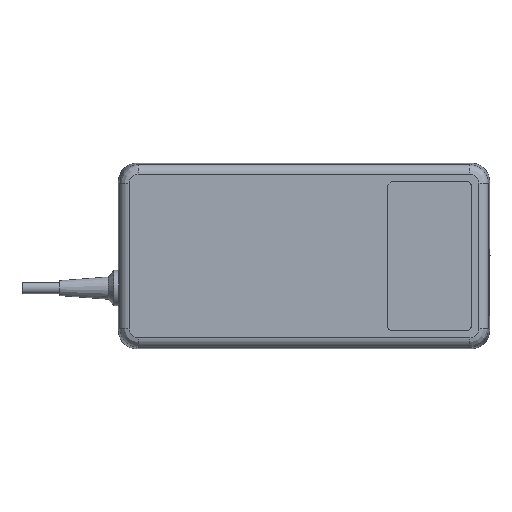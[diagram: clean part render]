
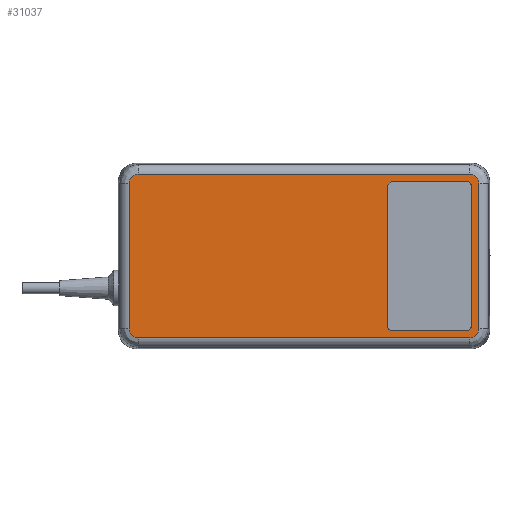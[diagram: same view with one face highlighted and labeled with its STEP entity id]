
A CAD part, front view. The second image highlights one B-rep face of the part: STEP entity #31037.
In plain terms, the highlighted planar face has unit normal (0, -1, 0).
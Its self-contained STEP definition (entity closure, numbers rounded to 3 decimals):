
#26440=CARTESIAN_POINT('',(-89.135,-21.5,
44.128));
#26441=CARTESIAN_POINT('',(-89.465,-21.5,
44.128));
#26442=CARTESIAN_POINT('',(-90.112,-21.5,
44.065));
#26443=CARTESIAN_POINT('',(-91.059,-21.5,43.779));
#26444=CARTESIAN_POINT('',(-91.928,-21.5,43.314));
#26445=CARTESIAN_POINT('',(-92.69,-21.5,42.689));
#26446=CARTESIAN_POINT('',(-93.315,-21.5,41.927));
#26447=CARTESIAN_POINT('',(-93.779,-21.5,
41.059));
#26448=CARTESIAN_POINT('',(-94.065,-21.5,
40.111));
#26449=CARTESIAN_POINT('',(-94.128,-21.5,
39.465));
#26450=CARTESIAN_POINT('',(-94.128,-21.5,
39.135));
#26452=DIRECTION('',(-1.,0.,0.));
#26453=VECTOR('',#26452,178.271);
#26454=CARTESIAN_POINT('',(89.135,-21.5,
44.128));
#26455=LINE('',#26454,#26453);
#26456=CARTESIAN_POINT('',(94.128,-21.5,
39.135));
#26457=CARTESIAN_POINT('',(94.128,-21.5,
39.465));
#26458=CARTESIAN_POINT('',(94.065,-21.5,
40.112));
#26459=CARTESIAN_POINT('',(93.779,-21.5,41.059));
#26460=CARTESIAN_POINT('',(93.314,-21.5,41.928));
#26461=CARTESIAN_POINT('',(92.689,-21.5,42.69));
#26462=CARTESIAN_POINT('',(91.927,-21.5,43.315));
#26463=CARTESIAN_POINT('',(91.059,-21.5,
43.779));
#26464=CARTESIAN_POINT('',(90.111,-21.5,
44.065));
#26465=CARTESIAN_POINT('',(89.465,-21.5,
44.128));
#26466=CARTESIAN_POINT('',(89.135,-21.5,
44.128));
#26468=DIRECTION('',(0.,0.,1.));
#26469=VECTOR('',#26468,78.271);
#26470=CARTESIAN_POINT('',(94.128,-21.5,
-39.135));
#26471=LINE('',#26470,#26469);
#26472=CARTESIAN_POINT('',(89.135,-21.5,
-44.128));
#26473=CARTESIAN_POINT('',(89.465,-21.5,
-44.128));
#26474=CARTESIAN_POINT('',(90.112,-21.5,
-44.065));
#26475=CARTESIAN_POINT('',(91.059,-21.5,-43.779));
#26476=CARTESIAN_POINT('',(91.928,-21.5,-43.314));
#26477=CARTESIAN_POINT('',(92.69,-21.5,-42.689));
#26478=CARTESIAN_POINT('',(93.315,-21.5,-41.927));
#26479=CARTESIAN_POINT('',(93.779,-21.5,
-41.059));
#26480=CARTESIAN_POINT('',(94.065,-21.5,
-40.111));
#26481=CARTESIAN_POINT('',(94.128,-21.5,
-39.465));
#26482=CARTESIAN_POINT('',(94.128,-21.5,
-39.135));
#26484=DIRECTION('',(1.,0.,0.));
#26485=VECTOR('',#26484,178.271);
#26486=CARTESIAN_POINT('',(-89.135,-21.5,
-44.128));
#26487=LINE('',#26486,#26485);
#26488=CARTESIAN_POINT('',(-94.128,-21.5,
-39.135));
#26489=CARTESIAN_POINT('',(-94.128,-21.5,
-39.465));
#26490=CARTESIAN_POINT('',(-94.065,-21.5,
-40.112));
#26491=CARTESIAN_POINT('',(-93.779,-21.5,-41.059));
#26492=CARTESIAN_POINT('',(-93.314,-21.5,-41.928));
#26493=CARTESIAN_POINT('',(-92.689,-21.5,-42.69));
#26494=CARTESIAN_POINT('',(-91.927,-21.5,-43.315));
#26495=CARTESIAN_POINT('',(-91.059,-21.5,
-43.779));
#26496=CARTESIAN_POINT('',(-90.111,-21.5,
-44.065));
#26497=CARTESIAN_POINT('',(-89.465,-21.5,
-44.128));
#26498=CARTESIAN_POINT('',(-89.135,-21.5,
-44.128));
#26500=DIRECTION('',(0.,0.,-1.));
#26501=VECTOR('',#26500,78.271);
#26502=CARTESIAN_POINT('',(-94.128,-21.5,
39.135));
#26503=LINE('',#26502,#26501);
#26504=DIRECTION('',(0.,0.,-1.));
#26505=VECTOR('',#26504,76.);
#26506=CARTESIAN_POINT('',(45.,-21.5,38.));
#26507=LINE('',#26506,#26505);
#26508=CARTESIAN_POINT('',(47.,-21.5,-38.));
#26509=DIRECTION('',(0.,-1.,0.));
#26510=DIRECTION('',(-1.,0.,0.));
#26511=AXIS2_PLACEMENT_3D('',#26508,#26509,#26510);
#26513=DIRECTION('',(1.,0.,0.));
#26514=VECTOR('',#26513,41.);
#26515=CARTESIAN_POINT('',(47.,-21.5,-40.));
#26516=LINE('',#26515,#26514);
#26517=CARTESIAN_POINT('',(88.,-21.5,-38.));
#26518=DIRECTION('',(0.,-1.,0.));
#26519=DIRECTION('',(0.,0.,-1.));
#26520=AXIS2_PLACEMENT_3D('',#26517,#26518,#26519);
#26522=DIRECTION('',(0.,0.,1.));
#26523=VECTOR('',#26522,76.);
#26524=CARTESIAN_POINT('',(90.,-21.5,-38.));
#26525=LINE('',#26524,#26523);
#26526=CARTESIAN_POINT('',(88.,-21.5,38.));
#26527=DIRECTION('',(0.,-1.,0.));
#26528=DIRECTION('',(1.,0.,0.));
#26529=AXIS2_PLACEMENT_3D('',#26526,#26527,#26528);
#26531=DIRECTION('',(-1.,0.,0.));
#26532=VECTOR('',#26531,41.);
#26533=CARTESIAN_POINT('',(88.,-21.5,40.));
#26534=LINE('',#26533,#26532);
#26535=DIRECTION('',(-0.707,0.,-0.707));
#26536=VECTOR('',#26535,2.828);
#26537=CARTESIAN_POINT('',(47.,-21.5,40.));
#26538=LINE('',#26537,#26536);
#27492=CARTESIAN_POINT('',(45.,-21.5,38.));
#27493=CARTESIAN_POINT('',(45.,-21.5,-38.));
#27494=VERTEX_POINT('',#27492);
#27495=VERTEX_POINT('',#27493);
#27496=CARTESIAN_POINT('',(47.,-21.5,-40.));
#27497=VERTEX_POINT('',#27496);
#27498=CARTESIAN_POINT('',(88.,-21.5,-40.));
#27499=VERTEX_POINT('',#27498);
#27500=CARTESIAN_POINT('',(90.,-21.5,-38.));
#27501=VERTEX_POINT('',#27500);
#27502=CARTESIAN_POINT('',(90.,-21.5,38.));
#27503=VERTEX_POINT('',#27502);
#27504=CARTESIAN_POINT('',(88.,-21.5,40.));
#27505=VERTEX_POINT('',#27504);
#27506=CARTESIAN_POINT('',(47.,-21.5,40.));
#27507=VERTEX_POINT('',#27506);
#27508=VERTEX_POINT('',#26440);
#27509=VERTEX_POINT('',#26450);
#27512=CARTESIAN_POINT('',(-94.128,-21.5,
-39.135));
#27513=VERTEX_POINT('',#27512);
#27516=VERTEX_POINT('',#26498);
#27518=CARTESIAN_POINT('',(89.135,-21.5,
-44.128));
#27519=VERTEX_POINT('',#27518);
#27522=VERTEX_POINT('',#26482);
#27524=CARTESIAN_POINT('',(94.128,-21.5,
39.135));
#27525=VERTEX_POINT('',#27524);
#27528=VERTEX_POINT('',#26466);
#30997=CARTESIAN_POINT('',(0.,-21.5,0.));
#30998=DIRECTION('',(0.,1.,0.));
#30999=DIRECTION('',(1.,0.,0.));
#31000=AXIS2_PLACEMENT_3D('',#30997,#30998,#30999);
#31001=PLANE('',#31000);
#31003=ORIENTED_EDGE('',*,*,#31002,.F.);
#31005=ORIENTED_EDGE('',*,*,#31004,.F.);
#31006=ORIENTED_EDGE('',*,*,#30987,.F.);
#31008=ORIENTED_EDGE('',*,*,#31007,.F.);
#31010=ORIENTED_EDGE('',*,*,#31009,.F.);
#31012=ORIENTED_EDGE('',*,*,#31011,.F.);
#31014=ORIENTED_EDGE('',*,*,#31013,.F.);
#31016=ORIENTED_EDGE('',*,*,#31015,.F.);
#31017=EDGE_LOOP('',(#31003,#31005,#31006,#31008,#31010,#31012,#31014,#31016));
#31018=FACE_OUTER_BOUND('',#31017,.F.);
#31020=ORIENTED_EDGE('',*,*,#31019,.T.);
#31022=ORIENTED_EDGE('',*,*,#31021,.T.);
#31024=ORIENTED_EDGE('',*,*,#31023,.T.);
#31026=ORIENTED_EDGE('',*,*,#31025,.T.);
#31028=ORIENTED_EDGE('',*,*,#31027,.T.);
#31030=ORIENTED_EDGE('',*,*,#31029,.T.);
#31032=ORIENTED_EDGE('',*,*,#31031,.T.);
#31034=ORIENTED_EDGE('',*,*,#31033,.T.);
#31035=EDGE_LOOP('',(#31020,#31022,#31024,#31026,#31028,#31030,#31032,#31034));
#31036=FACE_BOUND('',#31035,.F.);
#26451=B_SPLINE_CURVE_WITH_KNOTS('',3,(#26440,#26441,#26442,#26443,#26444,
#26445,#26446,#26447,#26448,#26449,#26450),.UNSPECIFIED.,.F.,.F.,(4,1,1,1,1,1,1,
1,4),(0.,0.125,0.25,0.375,0.5,0.625,0.75,0.875,1.),
.UNSPECIFIED.);
#26467=B_SPLINE_CURVE_WITH_KNOTS('',3,(#26456,#26457,#26458,#26459,#26460,
#26461,#26462,#26463,#26464,#26465,#26466),.UNSPECIFIED.,.F.,.F.,(4,1,1,1,1,1,1,
1,4),(0.,0.125,0.25,0.375,0.5,0.625,0.75,0.875,1.),
.UNSPECIFIED.);
#26483=B_SPLINE_CURVE_WITH_KNOTS('',3,(#26472,#26473,#26474,#26475,#26476,
#26477,#26478,#26479,#26480,#26481,#26482),.UNSPECIFIED.,.F.,.F.,(4,1,1,1,1,1,1,
1,4),(0.,0.125,0.25,0.375,0.5,0.625,0.75,0.875,1.),
.UNSPECIFIED.);
#26499=B_SPLINE_CURVE_WITH_KNOTS('',3,(#26488,#26489,#26490,#26491,#26492,
#26493,#26494,#26495,#26496,#26497,#26498),.UNSPECIFIED.,.F.,.F.,(4,1,1,1,1,1,1,
1,4),(0.,0.125,0.25,0.375,0.5,0.625,0.75,0.875,1.),
.UNSPECIFIED.);
#26512=CIRCLE('',#26511,2.);
#26521=CIRCLE('',#26520,2.);
#26530=CIRCLE('',#26529,2.);
#30987=EDGE_CURVE('',#27525,#27528,#26467,.T.);
#31002=EDGE_CURVE('',#27508,#27509,#26451,.T.);
#31004=EDGE_CURVE('',#27528,#27508,#26455,.T.);
#31007=EDGE_CURVE('',#27522,#27525,#26471,.T.);
#31009=EDGE_CURVE('',#27519,#27522,#26483,.T.);
#31011=EDGE_CURVE('',#27516,#27519,#26487,.T.);
#31013=EDGE_CURVE('',#27513,#27516,#26499,.T.);
#31015=EDGE_CURVE('',#27509,#27513,#26503,.T.);
#31019=EDGE_CURVE('',#27494,#27495,#26507,.T.);
#31021=EDGE_CURVE('',#27495,#27497,#26512,.T.);
#31023=EDGE_CURVE('',#27497,#27499,#26516,.T.);
#31025=EDGE_CURVE('',#27499,#27501,#26521,.T.);
#31027=EDGE_CURVE('',#27501,#27503,#26525,.T.);
#31029=EDGE_CURVE('',#27503,#27505,#26530,.T.);
#31031=EDGE_CURVE('',#27505,#27507,#26534,.T.);
#31033=EDGE_CURVE('',#27507,#27494,#26538,.T.);
#31037=ADVANCED_FACE('',(#31018,#31036),#31001,.F.);
